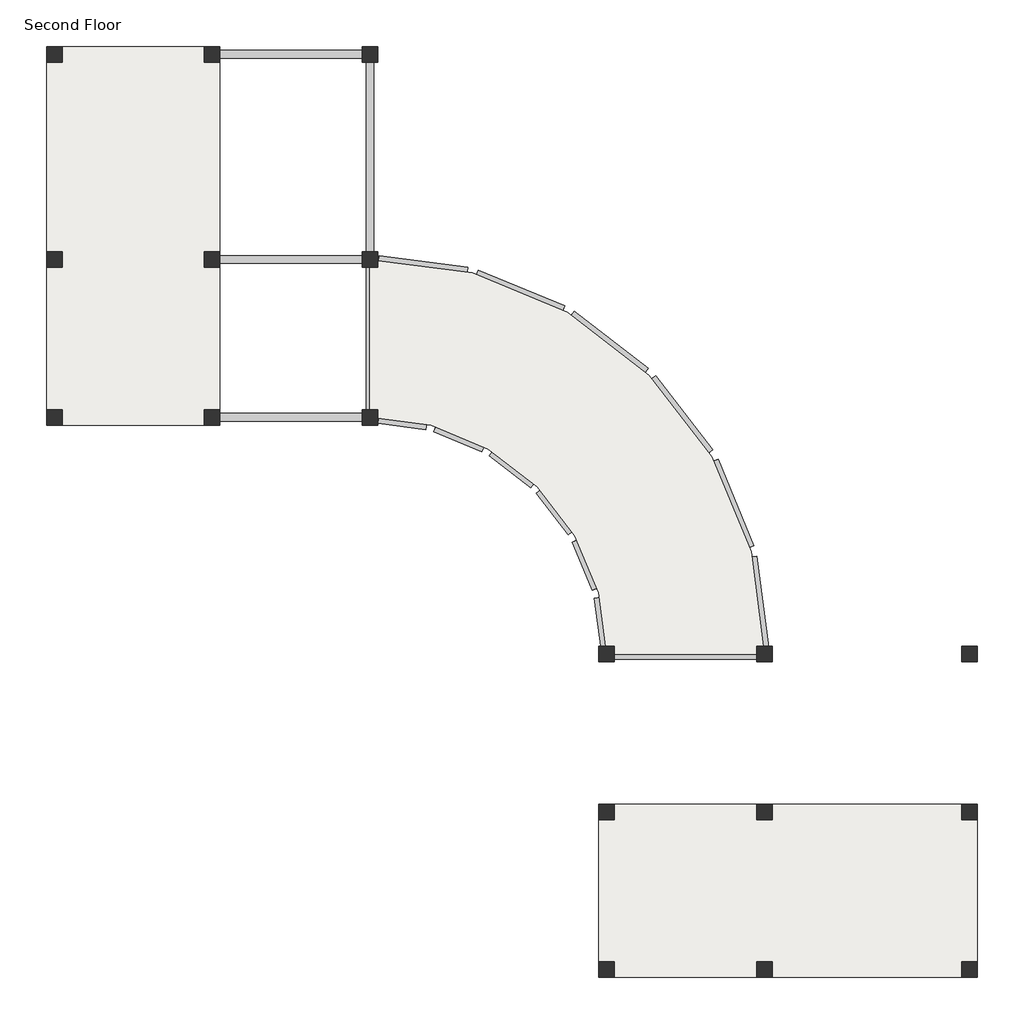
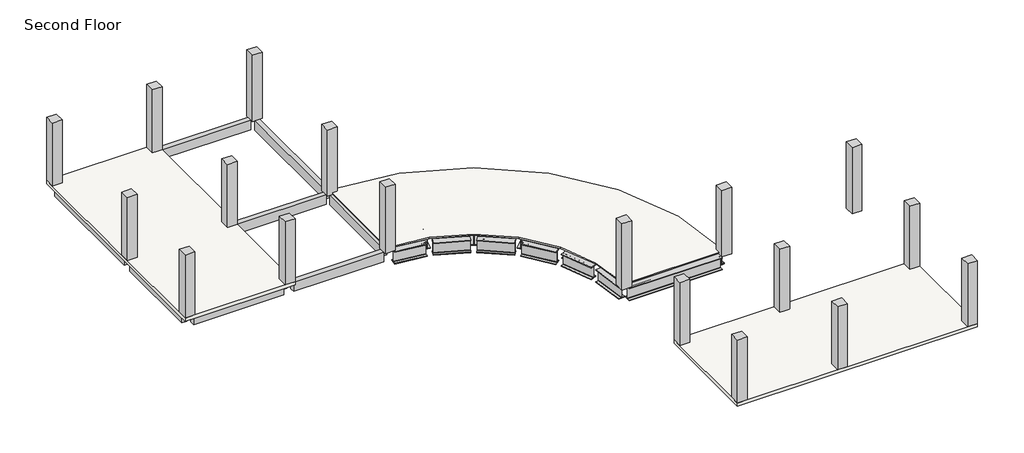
# One storey: 30 beams, 18 columns, 3 slabs.
"""IFC4 building model written with IfcOpenShell, lengths in millimetres."""

from ifc_helpers import new_model, si_unit, frame, origin, place, context, project, spatial, polyline, outline, extrude, faceted_brep, transform, mapped, element, save
from components import w760x350_3d57319f, w760x350_bd054468, w760x350_eeeee08b, w760x350_58736e79, w760x350_63e12864, w760x350_2e6ff1b6, w760x350_08d34d1b, w760x350_048e1adb

model = new_model("IFC4")

# Units and contexts
model_context = context("Model", 3, world=origin())
ifc_project = project(units=[si_unit("LENGTHUNIT", "METRE", prefix="MILLI")], contexts=[model_context])

# Site, building, storey
site = spatial("IfcSite", under=ifc_project)
building = spatial("IfcBuilding", under=site)
storey = spatial("IfcBuildingStorey", under=building, Name="Second Floor", Elevation=3048.0)

# Beams
placement = place(None, origin())
element("IfcBeam", 1, ObjectType="M_Concrete-Rectangular Beam : 300 x 600mm", at=placement, inside=storey, context=model_context, shape_type="SweptSolid", body=[
    extrude(outline(polyline([(-14241.0467956, 11398.6404637), (-14241.0467956, 11098.6404637), (-19737.0467956, 11098.6404637), (-19737.0467956, 11398.6404637), (-14241.0467956, 11398.6404637)])), frame((0.0, 0.0, 2448.0), z_axis=(0.0, 0.0, 1.0), x_axis=(1.0, 0.0, 0.0)), (0.0, 0.0, 1.0), 600.0),
])
element("IfcBeam", 2, ObjectType="M_Concrete-Rectangular Beam : 300 x 600mm", at=placement, inside=storey, context=model_context, shape_type="SweptSolid", body=[
    extrude(outline(polyline([(-20337.0467956, 11398.6404637), (-20337.0467956, 11098.6404637), (-25833.0467956, 11098.6404637), (-25833.0467956, 11398.6404637), (-20337.0467956, 11398.6404637)])), frame((0.0, 0.0, 2448.0), z_axis=(0.0, 0.0, 1.0), x_axis=(1.0, 0.0, 0.0)), (0.0, 0.0, 1.0), 510.0),
])
element("IfcBeam", 3, ObjectType="M_Concrete-Rectangular Beam : 300 x 600mm", at=placement, inside=storey, context=model_context, shape_type="SweptSolid", body=[
    extrude(outline(polyline([(-14241.0467956, 3473.6404637), (-14241.0467956, 3173.6404637), (-19737.0467956, 3173.6404637), (-19737.0467956, 3473.6404637), (-14241.0467956, 3473.6404637)])), frame((0.0, 0.0, 2448.0), z_axis=(0.0, 0.0, 1.0), x_axis=(1.0, 0.0, 0.0)), (0.0, 0.0, 1.0), 600.0),
])
element("IfcBeam", 4, ObjectType="M_Concrete-Rectangular Beam : 300 x 600mm", at=placement, inside=storey, context=model_context, shape_type="SweptSolid", body=[
    extrude(outline(polyline([(-20337.0467956, 3473.6404637), (-20337.0467956, 3173.6404637), (-25833.0467956, 3173.6404637), (-25833.0467956, 3473.6404637), (-20337.0467956, 3473.6404637)])), frame((0.0, 0.0, 2448.0), z_axis=(0.0, 0.0, 1.0), x_axis=(1.0, 0.0, 0.0)), (0.0, 0.0, 1.0), 510.0),
])
element("IfcBeam", 5, ObjectType="M_Concrete-Rectangular Beam : 300 x 600mm", at=placement, inside=storey, context=model_context, shape_type="SweptSolid", body=[
    extrude(outline(polyline([(-14241.0467956, -2622.3595363), (-14241.0467956, -2922.3595363), (-19737.0467956, -2922.3595363), (-19737.0467956, -2622.3595363), (-14241.0467956, -2622.3595363)])), frame((0.0, 0.0, 2448.0), z_axis=(0.0, 0.0, 1.0), x_axis=(1.0, 0.0, 0.0)), (0.0, 0.0, 1.0), 600.0),
])
element("IfcBeam", 6, ObjectType="M_Concrete-Rectangular Beam : 300 x 600mm", at=placement, inside=storey, context=model_context, shape_type="SweptSolid", body=[
    extrude(outline(polyline([(-20337.0467956, -2622.3595363), (-20337.0467956, -2922.3595363), (-25833.0467956, -2922.3595363), (-25833.0467956, -2622.3595363), (-20337.0467956, -2622.3595363)])), frame((0.0, 0.0, 2448.0), z_axis=(0.0, 0.0, 1.0), x_axis=(1.0, 0.0, 0.0)), (0.0, 0.0, 1.0), 510.0),
])
element("IfcBeam", 7, ObjectType="M_Concrete-Rectangular Beam : 300 x 600mm", at=placement, inside=storey, context=model_context, shape_type="SweptSolid", body=[
    extrude(outline(polyline([(-13791.0467956, -2472.3595363), (-14091.0467956, -2472.3595363), (-14091.0467956, 3023.6404637), (-13791.0467956, 3023.6404637), (-13791.0467956, -2472.3595363)])), frame((0.0, 0.0, 2448.0), z_axis=(0.0, 0.0, 1.0), x_axis=(1.0, 0.0, 0.0)), (0.0, 0.0, 1.0), 600.0),
])
element("IfcBeam", 8, ObjectType="M_Concrete-Rectangular Beam : 300 x 600mm", at=placement, inside=storey, context=model_context, shape_type="SweptSolid", body=[
    extrude(outline(polyline([(-13791.0467956, 3623.6404637), (-14091.0467956, 3623.6404637), (-14091.0467956, 10948.6404637), (-13791.0467956, 10948.6404637), (-13791.0467956, 3623.6404637)])), frame((0.0, 0.0, 2448.0), z_axis=(0.0, 0.0, 1.0), x_axis=(1.0, 0.0, 0.0)), (0.0, 0.0, 1.0), 600.0),
])
element("IfcBeam", 9, ObjectType="M_Concrete-Rectangular Beam : 300 x 600mm", at=placement, inside=storey, context=model_context, shape_type="SweptSolid", body=[
    extrude(outline(polyline([(-19887.0467956, -2472.3595363), (-20187.0467956, -2472.3595363), (-20187.0467956, 3023.6404637), (-19887.0467956, 3023.6404637), (-19887.0467956, -2472.3595363)])), frame((0.0, 0.0, 2448.0), z_axis=(0.0, 0.0, 1.0), x_axis=(1.0, 0.0, 0.0)), (0.0, 0.0, 1.0), 510.0),
])
element("IfcBeam", 10, ObjectType="M_Concrete-Rectangular Beam : 300 x 600mm", at=placement, inside=storey, context=model_context, shape_type="SweptSolid", body=[
    extrude(outline(polyline([(-19887.0467956, 3623.6404637), (-20187.0467956, 3623.6404637), (-20187.0467956, 10948.6404637), (-19887.0467956, 10948.6404637), (-19887.0467956, 3623.6404637)])), frame((0.0, 0.0, 2448.0), z_axis=(0.0, 0.0, 1.0), x_axis=(1.0, 0.0, 0.0)), (0.0, 0.0, 1.0), 510.0),
])
element("IfcBeam", 11, ObjectType="M_Concrete-Rectangular Beam : 300 x 600mm", at=placement, inside=storey, context=model_context, shape_type="SweptSolid", body=[
    extrude(outline(polyline([(-25983.0467956, -2472.3595363), (-26283.0467956, -2472.3595363), (-26283.0467956, 3023.6404637), (-25983.0467956, 3023.6404637), (-25983.0467956, -2472.3595363)])), frame((0.0, 0.0, 2448.0), z_axis=(0.0, 0.0, 1.0), x_axis=(1.0, 0.0, 0.0)), (0.0, 0.0, 1.0), 510.0),
])
element("IfcBeam", 12, ObjectType="M_Concrete-Rectangular Beam : 300 x 600mm", at=placement, inside=storey, context=model_context, shape_type="SweptSolid", body=[
    extrude(outline(polyline([(-25983.0467956, 3623.6404637), (-26283.0467956, 3623.6404637), (-26283.0467956, 10948.6404637), (-25983.0467956, 10948.6404637), (-25983.0467956, 3623.6404637)])), frame((0.0, 0.0, 2448.0), z_axis=(0.0, 0.0, 1.0), x_axis=(1.0, 0.0, 0.0)), (0.0, 0.0, 1.0), 510.0),
])
w760x350_shape = w760x350_3d57319f(model_context)
element("IfcBeam", 13, ObjectType="M_W Shapes : W760X350", at=placement, inside=storey, context=model_context, shape_type="MappedRepresentation", body=[
    mapped(w760x350_shape, transform((-10785.5249977, -139.7918622, 2523.5), x_axis=(0.25881904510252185, 0.9659258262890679, 0.0), y_axis=(-0.9659258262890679, 0.25881904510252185, 0.0), z_axis=(0.0, 0.0, 1.0))),
])
element("IfcBeam", 14, ObjectType="M_W Shapes : W760X350", at=placement, inside=storey, context=model_context, shape_type="MappedRepresentation", body=[
    mapped(w760x350_shape, transform((-7845.0467956, -1357.7778134, 2523.5), x_axis=(0.5000000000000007, 0.8660254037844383, 0.0), y_axis=(-0.8660254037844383, 0.5000000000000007, 0.0), z_axis=(0.0, 0.0, 1.0))),
])
element("IfcBeam", 15, ObjectType="M_W Shapes : W760X350", at=placement, inside=storey, context=model_context, shape_type="MappedRepresentation", body=[
    mapped(w760x350_shape, transform((-5320.0009193, -3295.3136601, 2523.5), x_axis=(0.7071067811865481, 0.707106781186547, 0.0), y_axis=(-0.707106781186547, 0.7071067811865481, 0.0), z_axis=(0.0, 0.0, 1.0))),
])
element("IfcBeam", 16, ObjectType="M_W Shapes : W760X350", at=placement, inside=storey, context=model_context, shape_type="MappedRepresentation", body=[
    mapped(w760x350_shape, transform((-3382.4650726, -5820.3595363, 2523.5), x_axis=(0.866025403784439, 0.4999999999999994, 0.0), y_axis=(-0.4999999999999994, 0.866025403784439, 0.0), z_axis=(0.0, 0.0, 1.0))),
])
element("IfcBeam", 17, ObjectType="M_W Shapes : W760X350", at=placement, inside=storey, context=model_context, shape_type="MappedRepresentation", body=[
    mapped(w760x350_shape, transform((-2164.4791214, -8760.8377385, 2523.5), x_axis=(0.9659258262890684, 0.25881904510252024, 0.0), y_axis=(-0.25881904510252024, 0.9659258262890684, 0.0), z_axis=(0.0, 0.0, 1.0))),
])
w760x350_2_shape = w760x350_bd054468(model_context)
element("IfcBeam", 18, ObjectType="M_W Shapes : W760X350", at=placement, inside=storey, context=model_context, shape_type="MappedRepresentation", body=[
    mapped(w760x350_2_shape, transform((-12757.7261213, -2928.1466585, 2523.5), x_axis=(0.991444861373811, -0.13052619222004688, 0.0), y_axis=(0.13052619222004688, 0.991444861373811, 0.0), z_axis=(0.0, 0.0, 1.0))),
])
w760x350_3_shape = w760x350_eeeee08b(model_context)
element("IfcBeam", 19, ObjectType="M_W Shapes : W760X350", at=placement, inside=storey, context=model_context, shape_type="MappedRepresentation", body=[
    mapped(w760x350_3_shape, transform((-10471.7261213, -3540.6785124, 2523.5), x_axis=(0.9238795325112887, -0.382683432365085, 0.0), y_axis=(0.382683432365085, 0.9238795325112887, 0.0), z_axis=(0.0, 0.0, 1.0))),
])
element("IfcBeam", 20, ObjectType="M_W Shapes : W760X350", at=placement, inside=storey, context=model_context, shape_type="MappedRepresentation", body=[
    mapped(w760x350_3_shape, transform((-8422.154592, -4723.9991867, 2523.5), x_axis=(0.7933533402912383, -0.6087614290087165, 0.0), y_axis=(0.6087614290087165, 0.7933533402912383, 0.0), z_axis=(0.0, 0.0, 1.0))),
])
element("IfcBeam", 21, ObjectType="M_W Shapes : W760X350", at=placement, inside=storey, context=model_context, shape_type="MappedRepresentation", body=[
    mapped(w760x350_3_shape, transform((-6748.6864459, -6397.4673328, 2523.5), x_axis=(0.608761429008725, -0.7933533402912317, 0.0), y_axis=(0.7933533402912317, 0.608761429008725, 0.0), z_axis=(0.0, 0.0, 1.0))),
])
element("IfcBeam", 22, ObjectType="M_W Shapes : W760X350", at=placement, inside=storey, context=model_context, shape_type="MappedRepresentation", body=[
    mapped(w760x350_3_shape, transform((-5565.3657717, -8447.0388621, 2523.5), x_axis=(0.38268343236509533, -0.9238795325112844, 0.0), y_axis=(0.9238795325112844, 0.38268343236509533, 0.0), z_axis=(0.0, 0.0, 1.0))),
])
w760x350_4_shape = w760x350_58736e79(model_context)
element("IfcBeam", 23, ObjectType="M_W Shapes : W760X350", at=placement, inside=storey, context=model_context, shape_type="MappedRepresentation", body=[
    mapped(w760x350_4_shape, transform((-11968.8456719, 3063.99526, 2523.5), x_axis=(0.9914448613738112, -0.13052619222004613, 0.0), y_axis=(0.13052619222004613, 0.9914448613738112, 0.0), z_axis=(0.0, 0.0, 1.0))),
])
w760x350_5_shape = w760x350_63e12864(model_context)
element("IfcBeam", 24, ObjectType="M_W Shapes : W760X350", at=placement, inside=storey, context=model_context, shape_type="MappedRepresentation", body=[
    mapped(w760x350_5_shape, transform((-8158.8456719, 2043.1088368, 2523.5), x_axis=(0.923879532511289, -0.3826834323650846, 0.0), y_axis=(0.3826834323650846, 0.923879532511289, 0.0), z_axis=(0.0, 0.0, 1.0))),
])
element("IfcBeam", 25, ObjectType="M_W Shapes : W760X350", at=placement, inside=storey, context=model_context, shape_type="MappedRepresentation", body=[
    mapped(w760x350_5_shape, transform((-4742.8931229, 70.9077131, 2523.5), x_axis=(0.7933533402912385, -0.6087614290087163, 0.0), y_axis=(0.6087614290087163, 0.7933533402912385, 0.0), z_axis=(0.0, 0.0, 1.0))),
])
element("IfcBeam", 26, ObjectType="M_W Shapes : W760X350", at=placement, inside=storey, context=model_context, shape_type="MappedRepresentation", body=[
    mapped(w760x350_5_shape, transform((-1953.7795461, -2718.2058637, 2523.5), x_axis=(0.608761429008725, -0.7933533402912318, 0.0), y_axis=(0.7933533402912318, 0.608761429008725, 0.0), z_axis=(0.0, 0.0, 1.0))),
])
element("IfcBeam", 27, ObjectType="M_W Shapes : W760X350", at=placement, inside=storey, context=model_context, shape_type="MappedRepresentation", body=[
    mapped(w760x350_5_shape, transform((18.4215776, -6134.1584127, 2523.5), x_axis=(0.38268343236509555, -0.9238795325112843, 0.0), y_axis=(0.9238795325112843, 0.38268343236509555, 0.0), z_axis=(0.0, 0.0, 1.0))),
])
w760x350_6_shape = w760x350_2e6ff1b6(model_context)
element("IfcBeam", 28, ObjectType="M_W Shapes : W760X350", at=placement, inside=storey, context=model_context, shape_type="MappedRepresentation", body=[
    mapped(w760x350_6_shape, transform((-1749.0467956, -11916.3595363, 2523.5), x_axis=(1.0, 0.0, 0.0), y_axis=(0.0, 1.0, 0.0), z_axis=(0.0, 0.0, 1.0))),
])
w760x350_7_shape = w760x350_08d34d1b(model_context)
element("IfcBeam", 29, ObjectType="M_W Shapes : W760X350", at=placement, inside=storey, context=model_context, shape_type="MappedRepresentation", body=[
    mapped(w760x350_7_shape, transform((-4952.8339178, -10733.0388621, 2523.5), x_axis=(0.13052619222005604, -0.9914448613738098, 0.0), y_axis=(0.9914448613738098, 0.13052619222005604, 0.0), z_axis=(0.0, 0.0, 1.0))),
])
w760x350_8_shape = w760x350_048e1adb(model_context)
element("IfcBeam", 30, ObjectType="M_W Shapes : W760X350", at=placement, inside=storey, context=model_context, shape_type="MappedRepresentation", body=[
    mapped(w760x350_8_shape, transform((1039.3080008, -9944.1584127, 2523.5), x_axis=(0.13052619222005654, -0.9914448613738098, 0.0), y_axis=(0.9914448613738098, 0.13052619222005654, 0.0), z_axis=(0.0, 0.0, 1.0))),
])

# Columns
element("IfcColumn", 31, ObjectType="M_Concrete-Square-Column : 600 x 600mm", at=placement, inside=storey, context=model_context, shape_type="Brep", body=[
    faceted_brep([(-14241.0467956, -3072.3595363, 3048.0), (-14241.0467956, -2472.3595363, 3048.0), (-13641.0467956, -2472.3595363, 3048.0), (-13641.0467956, -3072.3595363, 3048.0), (-14241.0467956, -3072.3595363, 7315.2), (-14241.0467956, -2472.3595363, 7315.2), (-13641.0467956, -2472.3595363, 7315.2), (-13641.0467956, -2472.3595363, 3168.0), (-13941.0467956, -2472.3595363, 3168.0), (-13941.0467956, -2472.3595363, 3093.0), (-13641.0467956, -2472.3595363, 3093.0), (-13641.0467956, -2811.8552856, 3093.0), (-13641.0467956, -2811.8552856, 3168.0), (-13641.0467956, -3072.3595363, 7315.2), (-13941.0467956, -2772.3595363, 3093.0), (-13941.0467956, -2772.3595363, 3168.0)], [[[0, 1, 2, 3]], [[1, 0, 4, 5]], [[2, 1, 5, 6, 7, 8, 9, 10]], [[3, 2, 10, 11, 12, 7, 6, 13]], [[0, 3, 13, 4]], [[5, 4, 13, 6]], [[9, 14, 11, 10]], [[12, 15, 8, 7]], [[14, 15, 12, 11]], [[15, 14, 9, 8]]]),
])
element("IfcColumn", 32, ObjectType="M_Concrete-Square-Column : 600 x 600mm", at=placement, inside=storey, context=model_context, shape_type="Brep", body=[
    faceted_brep([(-14241.0467956, 3023.6404637, 3048.0), (-14241.0467956, 3623.6404637, 3048.0), (-13641.0467956, 3623.6404637, 3048.0), (-13641.0467956, 3023.6404637, 3048.0), (-14241.0467956, 3023.6404637, 7315.2), (-14241.0467956, 3623.6404637, 7315.2), (-13641.0467956, 3623.6404637, 7315.2), (-13641.0467956, 3023.6404637, 7315.2), (-13641.0467956, 3023.6404637, 3168.0), (-13641.0467956, 3284.1447144, 3168.0), (-13641.0467956, 3284.1447144, 3093.0), (-13641.0467956, 3023.6404637, 3093.0), (-13941.0467956, 3023.6404637, 3093.0), (-13941.0467956, 3023.6404637, 3168.0), (-13941.0467956, 3323.6404637, 3093.0), (-13941.0467956, 3323.6404637, 3168.0)], [[[0, 1, 2, 3]], [[1, 0, 4, 5]], [[2, 1, 5, 6]], [[3, 2, 6, 7, 8, 9, 10, 11]], [[0, 3, 11, 12, 13, 8, 7, 4]], [[5, 4, 7, 6]], [[14, 12, 11, 10]], [[15, 9, 8, 13]], [[15, 14, 10, 9]], [[14, 15, 13, 12]]]),
])
element("IfcColumn", 33, ObjectType="M_Concrete-Square-Column : 600 x 600mm", at=placement, inside=storey, context=model_context, shape_type="SweptSolid", body=[
    extrude(outline(polyline([(-14241.0467956, 10948.6404637), (-14241.0467956, 11548.6404637), (-13641.0467956, 11548.6404637), (-13641.0467956, 10948.6404637), (-14241.0467956, 10948.6404637)])), frame((0.0, 0.0, 3048.0), z_axis=(0.0, 0.0, 1.0), x_axis=(1.0, 0.0, 0.0)), (0.0, 0.0, 1.0), 4267.2),
])
element("IfcColumn", 34, ObjectType="M_Concrete-Square-Column : 600 x 600mm", at=placement, inside=storey, context=model_context, shape_type="SweptSolid", body=[
    extrude(outline(polyline([(-20337.0467956, -3072.3595363), (-20337.0467956, -2472.3595363), (-19737.0467956, -2472.3595363), (-19737.0467956, -3072.3595363), (-20337.0467956, -3072.3595363)])), frame((0.0, 0.0, 3168.0), z_axis=(0.0, 0.0, 1.0), x_axis=(1.0, 0.0, 0.0)), (0.0, 0.0, 1.0), 4057.2),
])
element("IfcColumn", 35, ObjectType="M_Concrete-Square-Column : 600 x 600mm", at=placement, inside=storey, context=model_context, shape_type="SweptSolid", body=[
    extrude(outline(polyline([(-20337.0467956, 3023.6404637), (-20337.0467956, 3623.6404637), (-19737.0467956, 3623.6404637), (-19737.0467956, 3023.6404637), (-20337.0467956, 3023.6404637)])), frame((0.0, 0.0, 3168.0), z_axis=(0.0, 0.0, 1.0), x_axis=(1.0, 0.0, 0.0)), (0.0, 0.0, 1.0), 4057.2),
])
element("IfcColumn", 36, ObjectType="M_Concrete-Square-Column : 600 x 600mm", at=placement, inside=storey, context=model_context, shape_type="SweptSolid", body=[
    extrude(outline(polyline([(-20337.0467956, 10948.6404637), (-20337.0467956, 11548.6404637), (-19737.0467956, 11548.6404637), (-19737.0467956, 10948.6404637), (-20337.0467956, 10948.6404637)])), frame((0.0, 0.0, 3168.0), z_axis=(0.0, 0.0, 1.0), x_axis=(1.0, 0.0, 0.0)), (0.0, 0.0, 1.0), 4057.2),
])
element("IfcColumn", 37, ObjectType="M_Concrete-Square-Column : 600 x 600mm", at=placement, inside=storey, context=model_context, shape_type="SweptSolid", body=[
    extrude(outline(polyline([(-26433.0467956, -3072.3595363), (-26433.0467956, -2472.3595363), (-25833.0467956, -2472.3595363), (-25833.0467956, -3072.3595363), (-26433.0467956, -3072.3595363)])), frame((0.0, 0.0, 3168.0), z_axis=(0.0, 0.0, 1.0), x_axis=(1.0, 0.0, 0.0)), (0.0, 0.0, 1.0), 4057.2),
])
element("IfcColumn", 38, ObjectType="M_Concrete-Square-Column : 600 x 600mm", at=placement, inside=storey, context=model_context, shape_type="SweptSolid", body=[
    extrude(outline(polyline([(-26433.0467956, 3023.6404637), (-26433.0467956, 3623.6404637), (-25833.0467956, 3623.6404637), (-25833.0467956, 3023.6404637), (-26433.0467956, 3023.6404637)])), frame((0.0, 0.0, 3168.0), z_axis=(0.0, 0.0, 1.0), x_axis=(1.0, 0.0, 0.0)), (0.0, 0.0, 1.0), 4057.2),
])
element("IfcColumn", 39, ObjectType="M_Concrete-Square-Column : 600 x 600mm", at=placement, inside=storey, context=model_context, shape_type="SweptSolid", body=[
    extrude(outline(polyline([(-26433.0467956, 10948.6404637), (-26433.0467956, 11548.6404637), (-25833.0467956, 11548.6404637), (-25833.0467956, 10948.6404637), (-26433.0467956, 10948.6404637)])), frame((0.0, 0.0, 3168.0), z_axis=(0.0, 0.0, 1.0), x_axis=(1.0, 0.0, 0.0)), (0.0, 0.0, 1.0), 4057.2),
])
element("IfcColumn", 40, ObjectType="M_Concrete-Square-Column : 600 x 600mm", at=placement, inside=storey, context=model_context, shape_type="Brep", body=[
    faceted_brep([(-4497.0467956, -12216.3595363, 3048.0), (-5097.0467956, -12216.3595363, 3048.0), (-5097.0467956, -11616.3595363, 3048.0), (-4497.0467956, -11616.3595363, 3048.0), (-4497.0467956, -12216.3595363, 7315.2), (-5097.0467956, -12216.3595363, 7315.2), (-4497.0467956, -11616.3595363, 3093.0), (-4497.0467956, -11916.3595363, 3093.0), (-4497.0467956, -11916.3595363, 3168.0), (-4497.0467956, -11616.3595363, 3168.0), (-4497.0467956, -11616.3595363, 7315.2), (-5097.0467956, -11616.3595363, 7315.2), (-4836.5425448, -11616.3595363, 3168.0), (-4836.5425448, -11616.3595363, 3093.0), (-4797.0467956, -11916.3595363, 3093.0), (-4797.0467956, -11916.3595363, 3168.0)], [[[0, 1, 2, 3]], [[1, 0, 4, 5]], [[0, 3, 6, 7, 8, 9, 10, 4]], [[3, 2, 11, 10, 9, 12, 13, 6]], [[2, 1, 5, 11]], [[5, 4, 10, 11]], [[13, 14, 7, 6]], [[8, 15, 12, 9]], [[14, 15, 8, 7]], [[15, 14, 13, 12]]]),
])
element("IfcColumn", 41, ObjectType="M_Concrete-Square-Column : 600 x 600mm", at=placement, inside=storey, context=model_context, shape_type="Brep", body=[
    faceted_brep([(1598.9532044, -12216.3595363, 3048.0), (998.9532044, -12216.3595363, 3048.0), (998.9532044, -11616.3595363, 3048.0), (1598.9532044, -11616.3595363, 3048.0), (1598.9532044, -12216.3595363, 7315.2), (998.9532044, -12216.3595363, 7315.2), (1598.9532044, -11616.3595363, 7315.2), (998.9532044, -11616.3595363, 3093.0), (1259.4574552, -11616.3595363, 3093.0), (1259.4574552, -11616.3595363, 3168.0), (998.9532044, -11616.3595363, 3168.0), (998.9532044, -11616.3595363, 7315.2), (998.9532044, -11916.3595363, 3168.0), (998.9532044, -11916.3595363, 3093.0), (1298.9532044, -11916.3595363, 3093.0), (1298.9532044, -11916.3595363, 3168.0)], [[[0, 1, 2, 3]], [[1, 0, 4, 5]], [[0, 3, 6, 4]], [[3, 2, 7, 8, 9, 10, 11, 6]], [[2, 1, 5, 11, 10, 12, 13, 7]], [[5, 4, 6, 11]], [[13, 14, 8, 7]], [[9, 15, 12, 10]], [[14, 15, 9, 8]], [[15, 14, 13, 12]]]),
])
element("IfcColumn", 42, ObjectType="M_Concrete-Square-Column : 600 x 600mm", at=placement, inside=storey, context=model_context, shape_type="SweptSolid", body=[
    extrude(outline(polyline([(8923.9532044, -12216.3595363), (8923.9532044, -11616.3595363), (9523.9532044, -11616.3595363), (9523.9532044, -12216.3595363), (8923.9532044, -12216.3595363)])), frame((0.0, 0.0, 3048.0), z_axis=(0.0, 0.0, 1.0), x_axis=(1.0, 0.0, 0.0)), (0.0, 0.0, 1.0), 4267.2),
])
element("IfcColumn", 43, ObjectType="M_Concrete-Square-Column : 600 x 600mm", at=placement, inside=storey, context=model_context, shape_type="SweptSolid", body=[
    extrude(outline(polyline([(-4497.0467956, -18312.3595363), (-5097.0467956, -18312.3595363), (-5097.0467956, -17712.3595363), (-4497.0467956, -17712.3595363), (-4497.0467956, -18312.3595363)])), frame((0.0, 0.0, 3168.0), z_axis=(0.0, 0.0, 1.0), x_axis=(1.0, 0.0, 0.0)), (0.0, 0.0, 1.0), 4057.2),
])
element("IfcColumn", 44, ObjectType="M_Concrete-Square-Column : 600 x 600mm", at=placement, inside=storey, context=model_context, shape_type="SweptSolid", body=[
    extrude(outline(polyline([(1598.9532044, -18312.3595363), (998.9532044, -18312.3595363), (998.9532044, -17712.3595363), (1598.9532044, -17712.3595363), (1598.9532044, -18312.3595363)])), frame((0.0, 0.0, 3168.0), z_axis=(0.0, 0.0, 1.0), x_axis=(1.0, 0.0, 0.0)), (0.0, 0.0, 1.0), 4057.2),
])
element("IfcColumn", 45, ObjectType="M_Concrete-Square-Column : 600 x 600mm", at=placement, inside=storey, context=model_context, shape_type="SweptSolid", body=[
    extrude(outline(polyline([(9523.9532044, -18312.3595363), (8923.9532044, -18312.3595363), (8923.9532044, -17712.3595363), (9523.9532044, -17712.3595363), (9523.9532044, -18312.3595363)])), frame((0.0, 0.0, 3168.0), z_axis=(0.0, 0.0, 1.0), x_axis=(1.0, 0.0, 0.0)), (0.0, 0.0, 1.0), 4057.2),
])
element("IfcColumn", 46, ObjectType="M_Concrete-Square-Column : 600 x 600mm", at=placement, inside=storey, context=model_context, shape_type="SweptSolid", body=[
    extrude(outline(polyline([(-4497.0467956, -24408.3595363), (-5097.0467956, -24408.3595363), (-5097.0467956, -23808.3595363), (-4497.0467956, -23808.3595363), (-4497.0467956, -24408.3595363)])), frame((0.0, 0.0, 3168.0), z_axis=(0.0, 0.0, 1.0), x_axis=(1.0, 0.0, 0.0)), (0.0, 0.0, 1.0), 4057.2),
])
element("IfcColumn", 47, ObjectType="M_Concrete-Square-Column : 600 x 600mm", at=placement, inside=storey, context=model_context, shape_type="SweptSolid", body=[
    extrude(outline(polyline([(1598.9532044, -24408.3595363), (998.9532044, -24408.3595363), (998.9532044, -23808.3595363), (1598.9532044, -23808.3595363), (1598.9532044, -24408.3595363)])), frame((0.0, 0.0, 3168.0), z_axis=(0.0, 0.0, 1.0), x_axis=(1.0, 0.0, 0.0)), (0.0, 0.0, 1.0), 4057.2),
])
element("IfcColumn", 48, ObjectType="M_Concrete-Square-Column : 600 x 600mm", at=placement, inside=storey, context=model_context, shape_type="SweptSolid", body=[
    extrude(outline(polyline([(9523.9532044, -24408.3595363), (8923.9532044, -24408.3595363), (8923.9532044, -23808.3595363), (9523.9532044, -23808.3595363), (9523.9532044, -24408.3595363)])), frame((0.0, 0.0, 3168.0), z_axis=(0.0, 0.0, 1.0), x_axis=(1.0, 0.0, 0.0)), (0.0, 0.0, 1.0), 4057.2),
])

# Slabs
element("IfcSlab", 49, ObjectType="160mm Concrete With 50mm Metal Deck", at=placement, inside=storey, context=model_context, shape_type="Brep", body=[
    faceted_brep([(-19737.0467956, 11548.6404637, 2958.0), (-19737.0467956, 10948.6404637, 2958.0), (-19737.0467956, 3623.6404637, 2958.0), (-19737.0467956, 3023.6404637, 2958.0), (-19737.0467956, -2472.3595363, 2958.0), (-19737.0467956, -3072.3595363, 2958.0), (-20337.0467956, -3072.3595363, 2958.0), (-25833.0467956, -3072.3595363, 2958.0), (-26433.0467956, -3072.3595363, 2958.0), (-26433.0467956, -2472.3595363, 2958.0), (-26433.0467956, 3023.6404637, 2958.0), (-26433.0467956, 3623.6404637, 2958.0), (-26433.0467956, 10948.6404637, 2958.0), (-26433.0467956, 11548.6404637, 2958.0), (-25833.0467956, 11548.6404637, 2958.0), (-20337.0467956, 11548.6404637, 2958.0), (-19737.0467956, 11548.6404637, 3168.0), (-20337.0467956, 11548.6404637, 3168.0), (-25833.0467956, 11548.6404637, 3168.0), (-26433.0467956, 11548.6404637, 3168.0), (-26433.0467956, 10948.6404637, 3168.0), (-26433.0467956, 3623.6404637, 3168.0), (-26433.0467956, 3023.6404637, 3168.0), (-26433.0467956, -2472.3595363, 3168.0), (-26433.0467956, -3072.3595363, 3168.0), (-25833.0467956, -3072.3595363, 3168.0), (-20337.0467956, -3072.3595363, 3168.0), (-19737.0467956, -3072.3595363, 3168.0), (-19737.0467956, -2472.3595363, 3168.0), (-19737.0467956, 3023.6404637, 3168.0), (-19737.0467956, 3623.6404637, 3168.0), (-19737.0467956, 10948.6404637, 3168.0)], [[[0, 1, 2, 3, 4, 5, 6, 7, 8, 9, 10, 11, 12, 13, 14, 15]], [[16, 17, 18, 19, 20, 21, 22, 23, 24, 25, 26, 27, 28, 29, 30, 31]], [[5, 4, 3, 2, 1, 0, 16, 31, 30, 29, 28, 27]], [[8, 7, 6, 5, 27, 26, 25, 24]], [[13, 12, 11, 10, 9, 8, 24, 23, 22, 21, 20, 19]], [[0, 15, 14, 13, 19, 18, 17, 16]]]),
])
element("IfcSlab", 50, ObjectType="160mm Concrete With 50mm Metal Deck", at=placement, inside=storey, context=model_context, shape_type="Brep", body=[
    faceted_brep([(9523.9532044, -17712.3595363, 2958.0), (9523.9532044, -24408.3595363, 2958.0), (-5097.0467956, -24408.3595363, 2958.0), (-5097.0467956, -17712.3595363, 2958.0), (-4947.0467956, -17712.3595363, 2958.0), (-4647.0467956, -17712.3595363, 2958.0), (1148.9532044, -17712.3595363, 2958.0), (1448.9532044, -17712.3595363, 2958.0), (9073.9532044, -17712.3595363, 2958.0), (9373.9532044, -17712.3595363, 2958.0), (9523.9532044, -17712.3595363, 3168.0), (8923.9532044, -17712.3595363, 3168.0), (1598.9532044, -17712.3595363, 3168.0), (998.9532044, -17712.3595363, 3168.0), (-4497.0467956, -17712.3595363, 3168.0), (-5097.0467956, -17712.3595363, 3168.0), (-5097.0467956, -18312.3595363, 3168.0), (-5097.0467956, -23808.3595363, 3168.0), (-5097.0467956, -24408.3595363, 3168.0), (-4497.0467956, -24408.3595363, 3168.0), (998.9532044, -24408.3595363, 3168.0), (1598.9532044, -24408.3595363, 3168.0), (8923.9532044, -24408.3595363, 3168.0), (9523.9532044, -24408.3595363, 3168.0), (9523.9532044, -23808.3595363, 3168.0), (9523.9532044, -18312.3595363, 3168.0)], [[[0, 1, 2, 3, 4, 5, 6, 7, 8, 9]], [[10, 11, 12, 13, 14, 15, 16, 17, 18, 19, 20, 21, 22, 23, 24, 25]], [[0, 9, 8, 7, 6, 5, 4, 3, 15, 14, 13, 12, 11, 10]], [[3, 2, 18, 17, 16, 15]], [[2, 1, 23, 22, 21, 20, 19, 18]], [[1, 0, 10, 25, 24, 23]]]),
])
element("IfcSlab", 51, ObjectType="75mm Metal Roof Deck", at=placement, inside=storey, context=model_context, shape_type="Brep", body=[
    faceted_brep([(-13941.0467956, 3323.6404637, 3093.0), (-13641.0467956, 3284.1447144, 3093.0), (-9996.6445482, 2804.3500563, 3093.0), (-6321.0467956, 1281.8676173, 3093.0), (-3164.7394503, -1140.0521911, 3093.0), (-742.8196419, -4296.3595363, 3093.0), (779.6627971, -7971.957289, 3093.0), (1259.4574552, -11616.3595363, 3093.0), (1298.9532044, -11916.3595363, 3093.0), (998.9532044, -11916.3595363, 3093.0), (-4497.0467956, -11916.3595363, 3093.0), (-4797.0467956, -11916.3595363, 3093.0), (-4836.5425448, -11616.3595363, 3093.0), (-5108.62104, -9549.7181879, 3093.0), (-6022.1105033, -7344.3595363, 3093.0), (-7475.2623884, -5450.5751292, 3093.0), (-9369.0467956, -3997.4232441, 3093.0), (-11574.4054471, -3083.9337808, 3093.0), (-13641.0467956, -2811.8552856, 3093.0), (-13941.0467956, -2772.3595363, 3093.0), (-13941.0467956, -2472.3595363, 3093.0), (-13941.0467956, 3023.6404637, 3093.0), (-13941.0467956, 3323.6404637, 3168.0), (-13941.0467956, 3023.6404637, 3168.0), (-13941.0467956, -2472.3595363, 3168.0), (-13941.0467956, -2772.3595363, 3168.0), (-13641.0467956, -2811.8552856, 3168.0), (-11574.4054471, -3083.9337808, 3168.0), (-9369.0467956, -3997.4232441, 3168.0), (-7475.2623884, -5450.5751292, 3168.0), (-6022.1105033, -7344.3595363, 3168.0), (-5108.62104, -9549.7181879, 3168.0), (-4836.5425448, -11616.3595363, 3168.0), (-4797.0467956, -11916.3595363, 3168.0), (-4497.0467956, -11916.3595363, 3168.0), (998.9532044, -11916.3595363, 3168.0), (1298.9532044, -11916.3595363, 3168.0), (1259.4574552, -11616.3595363, 3168.0), (779.6627971, -7971.957289, 3168.0), (-742.8196419, -4296.3595363, 3168.0), (-3164.7394503, -1140.0521911, 3168.0), (-6321.0467956, 1281.8676173, 3168.0), (-9996.6445482, 2804.3500563, 3168.0), (-13641.0467956, 3284.1447144, 3168.0)], [[[0, 1, 2, 3, 4, 5, 6, 7, 8, 9, 10, 11, 12, 13, 14, 15, 16, 17, 18, 19, 20, 21]], [[22, 23, 24, 25, 26, 27, 28, 29, 30, 31, 32, 33, 34, 35, 36, 37, 38, 39, 40, 41, 42, 43]], [[2, 1, 0, 22, 43, 42]], [[3, 2, 42, 41]], [[4, 3, 41, 40]], [[5, 4, 40, 39]], [[6, 5, 39, 38]], [[8, 7, 6, 38, 37, 36]], [[11, 10, 9, 8, 36, 35, 34, 33]], [[13, 12, 11, 33, 32, 31]], [[14, 13, 31, 30]], [[15, 14, 30, 29]], [[16, 15, 29, 28]], [[17, 16, 28, 27]], [[19, 18, 17, 27, 26, 25]], [[0, 21, 20, 19, 25, 24, 23, 22]]]),
])

save(model, "model.ifc")
